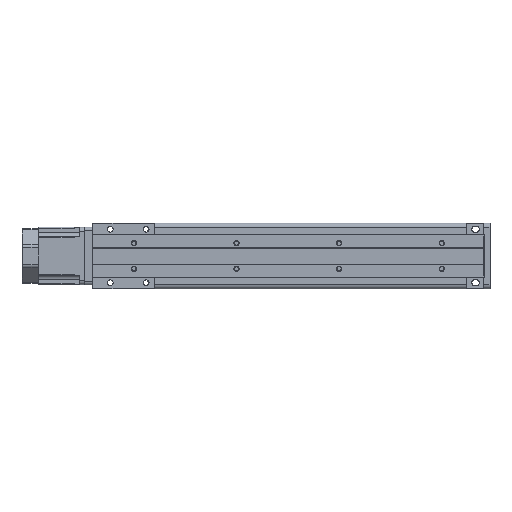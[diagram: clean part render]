
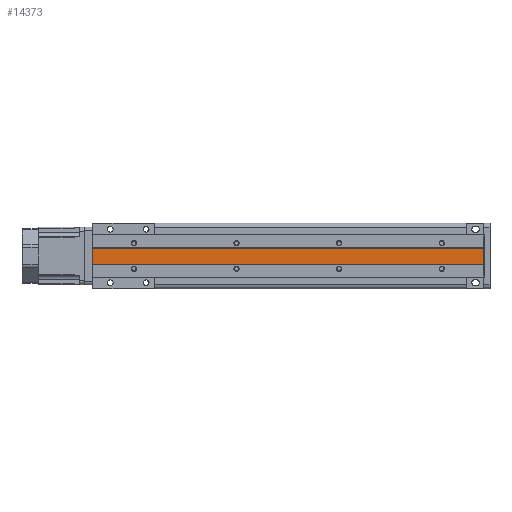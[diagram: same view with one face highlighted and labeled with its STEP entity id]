
A CAD part, front view. The second image highlights one B-rep face of the part: STEP entity #14373.
In plain terms, the highlighted planar face has unit normal (0, -1, 0).
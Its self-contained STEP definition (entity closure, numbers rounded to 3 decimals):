
#610=PLANE('',#23799);
#2024=VERTEX_POINT('',#20003);
#2025=VERTEX_POINT('',#20005);
#2026=VERTEX_POINT('',#20009);
#2027=VERTEX_POINT('',#20011);
#3267=VECTOR('',#16024,1.);
#3269=VECTOR('',#16027,1.);
#3270=VECTOR('',#16028,1.);
#3271=VECTOR('',#16029,1.);
#4789=LINE('',#20004,#3267);
#4791=LINE('',#20008,#3269);
#4792=LINE('',#20010,#3270);
#4793=LINE('',#20012,#3271);
#6492=EDGE_CURVE('',#2025,#2024,#4789,.T.);
#6494=EDGE_CURVE('',#2024,#2026,#4791,.T.);
#6495=EDGE_CURVE('',#2027,#2026,#4792,.T.);
#6496=EDGE_CURVE('',#2027,#2025,#4793,.T.);
#8749=ORIENTED_EDGE('',*,*,#6494,.T.);
#8750=ORIENTED_EDGE('',*,*,#6495,.F.);
#8751=ORIENTED_EDGE('',*,*,#6496,.T.);
#8752=ORIENTED_EDGE('',*,*,#6492,.T.);
#12529=EDGE_LOOP('',(#8749,#8750,#8751,#8752));
#13456=FACE_BOUND('',#12529,.T.);
#14373=ADVANCED_FACE('',(#13456),#610,.T.);
#16024=DIRECTION('',(1.,0.,0.));
#16026=DIRECTION('',(0.,-1.,0.));
#16027=DIRECTION('',(0.,0.,1.));
#16028=DIRECTION('',(1.,0.,0.));
#16029=DIRECTION('',(0.,0.,-1.));
#20003=CARTESIAN_POINT('',(329.,0.3,-8.));
#20004=CARTESIAN_POINT('',(-52.,0.3,-8.));
#20005=CARTESIAN_POINT('',(-52.,0.3,-8.));
#20007=CARTESIAN_POINT('',(-52.,0.3,-8.));
#20008=CARTESIAN_POINT('',(329.,0.3,7.7));
#20009=CARTESIAN_POINT('',(329.,0.3,7.7));
#20010=CARTESIAN_POINT('',(-52.,0.3,7.7));
#20011=CARTESIAN_POINT('',(-52.,0.3,7.7));
#20012=CARTESIAN_POINT('',(-52.,0.3,7.7));
#23799=AXIS2_PLACEMENT_3D('',#20007,#16026,$);
